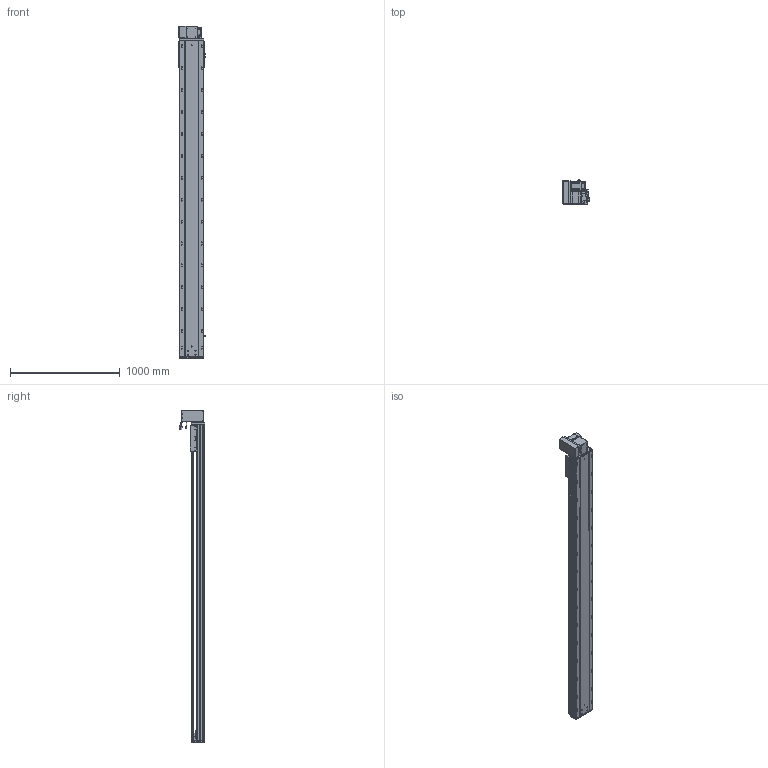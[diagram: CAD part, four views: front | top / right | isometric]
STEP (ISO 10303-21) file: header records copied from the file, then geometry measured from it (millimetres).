
FILE_DESCRIPTION (( 'STEP AP203' ), '1' );
FILE_NAME ('RY220-T-300-UL.SLDASM_2550.step', '2022-07-25T08:35:43', ( '' ), ( '' ), 'SwSTEP 2.0', 'SolidWorks 2016', '' );
FILE_SCHEMA (( 'CONFIG_CONTROL_DESIGN' ));
Length unit declared in the file: millimetre
Products named in the file (14): RY220-T-湍謫欶(鍼踢); RY220-T-300-UL.SLDASM_2550; 110A-T-肮祭謫釱傷裔; RY220-T-蛌殏萇儂假蚾啣(750W); RY220-T菁釱-300_2550; RY220翋肮祭謫釱; RY220翋肮祭謫裔啣; 覜茼ん672; 怢湛750W_ECMA-CX0807ES; RY220圉猾敕々湍臏賑輸; RY220-俋离672覜茼んえ; RY220-同步轮副支撑座6304×2; RY220-T-300-奻裔啣_2550; 滅袉蝶18-15
Assembly tree (18 placements, depth 2):
  RY220-T-300-UL.SLDASM_2550
    RY220-T菁釱-300_2550
    RY220翋肮祭謫釱
    覜茼ん672  x3
    RY220圉猾敕々湍臏賑輸
    RY220-T-300-奻裔啣_2550
    RY220-俋离672覜茼んえ
    滅袉蝶18-15  x3
    RY220翋肮祭謫裔啣  x2
    110A-T-肮祭謫釱傷裔
    怢湛750W_ECMA-CX0807ES
    RY220-T-湍謫欶(鍼踢)
    RY220-T-蛌殏萇儂假蚾啣(750W)
    RY220-同步轮副支撑座6304×2
Bounding box: 239.7 x 231.74 x 3030.5 mm (x, y, z)
Volume: 22291616.4 mm3; surface area: 6849636.2 mm2
Topology: 19 solids, 19 shells, 2936 faces, 8119 edges, 5096 vertices
Faces by surface type: cylinder 1436, plane 1069, cone 349, bspline 56, sphere 16, torus 10
Entity records: 97891 total; most frequent: CARTESIAN_POINT 27671, ORIENTED_EDGE 14522, DIRECTION 13972, EDGE_CURVE 7261, AXIS2_PLACEMENT_3D 5026, VERTEX_POINT 4720, VECTOR 3920, LINE 3920
